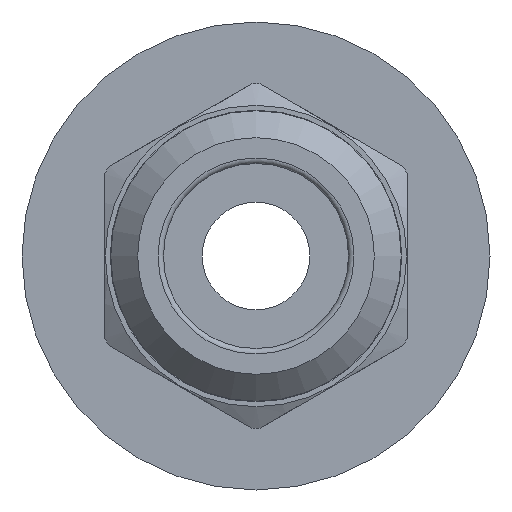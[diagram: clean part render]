
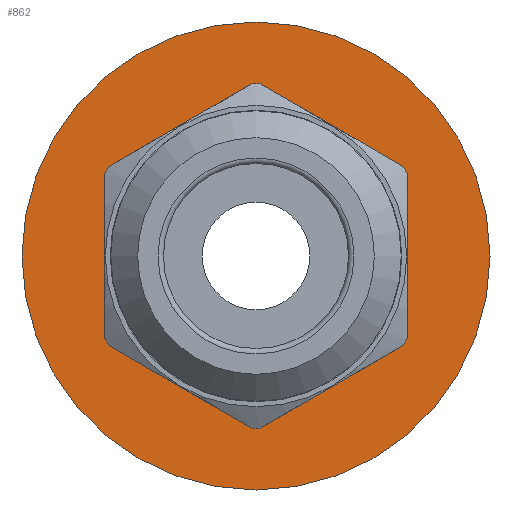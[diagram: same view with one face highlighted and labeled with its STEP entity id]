
A CAD part, front view. The second image highlights one B-rep face of the part: STEP entity #862.
In plain terms, the highlighted planar face has unit normal (0, -1, 0).
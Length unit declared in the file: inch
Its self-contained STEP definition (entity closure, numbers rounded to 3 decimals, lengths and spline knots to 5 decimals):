
#58=FACE_BOUND('',#199,.T.);
#77=PLANE('',#1017);
#141=FACE_OUTER_BOUND('',#198,.T.);
#198=EDGE_LOOP('',(#784,#785));
#199=EDGE_LOOP('',(#786,#787));
#340=CIRCLE('',#1018,0.435);
#341=CIRCLE('',#1019,0.435);
#342=CIRCLE('',#1020,0.23);
#343=CIRCLE('',#1021,0.23);
#430=VERTEX_POINT('',#1594);
#431=VERTEX_POINT('',#1595);
#432=VERTEX_POINT('',#1598);
#433=VERTEX_POINT('',#1599);
#551=EDGE_CURVE('',#430,#431,#340,.T.);
#552=EDGE_CURVE('',#431,#430,#341,.T.);
#553=EDGE_CURVE('',#432,#433,#342,.T.);
#554=EDGE_CURVE('',#433,#432,#343,.T.);
#784=ORIENTED_EDGE('',*,*,#551,.T.);
#785=ORIENTED_EDGE('',*,*,#552,.T.);
#786=ORIENTED_EDGE('',*,*,#553,.F.);
#787=ORIENTED_EDGE('',*,*,#554,.F.);
#862=ADVANCED_FACE('',(#141,#58),#77,.T.);
#1017=AXIS2_PLACEMENT_3D('',#1593,#1292,#1293);
#1018=AXIS2_PLACEMENT_3D('',#1596,#1294,#1295);
#1019=AXIS2_PLACEMENT_3D('',#1597,#1296,#1297);
#1020=AXIS2_PLACEMENT_3D('',#1600,#1298,#1299);
#1021=AXIS2_PLACEMENT_3D('',#1601,#1300,#1301);
#1292=DIRECTION('center_axis',(0.,-1.,0.));
#1293=DIRECTION('ref_axis',(0.,0.,-1.));
#1294=DIRECTION('center_axis',(0.,-1.,0.));
#1295=DIRECTION('ref_axis',(1.,0.,0.));
#1296=DIRECTION('center_axis',(0.,-1.,0.));
#1297=DIRECTION('ref_axis',(1.,0.,0.));
#1298=DIRECTION('center_axis',(0.,-1.,0.));
#1299=DIRECTION('ref_axis',(1.,0.,0.));
#1300=DIRECTION('center_axis',(0.,-1.,0.));
#1301=DIRECTION('ref_axis',(1.,0.,0.));
#1593=CARTESIAN_POINT('Origin',(0.,0.,-0.23));
#1594=CARTESIAN_POINT('',(0.,0.,-0.435));
#1595=CARTESIAN_POINT('',(0.,0.,0.435));
#1596=CARTESIAN_POINT('Origin',(0.,0.,0.));
#1597=CARTESIAN_POINT('Origin',(0.,0.,0.));
#1598=CARTESIAN_POINT('',(0.,0.,-0.23));
#1599=CARTESIAN_POINT('',(0.,0.,0.23));
#1600=CARTESIAN_POINT('Origin',(0.,0.,0.));
#1601=CARTESIAN_POINT('Origin',(0.,0.,0.));
